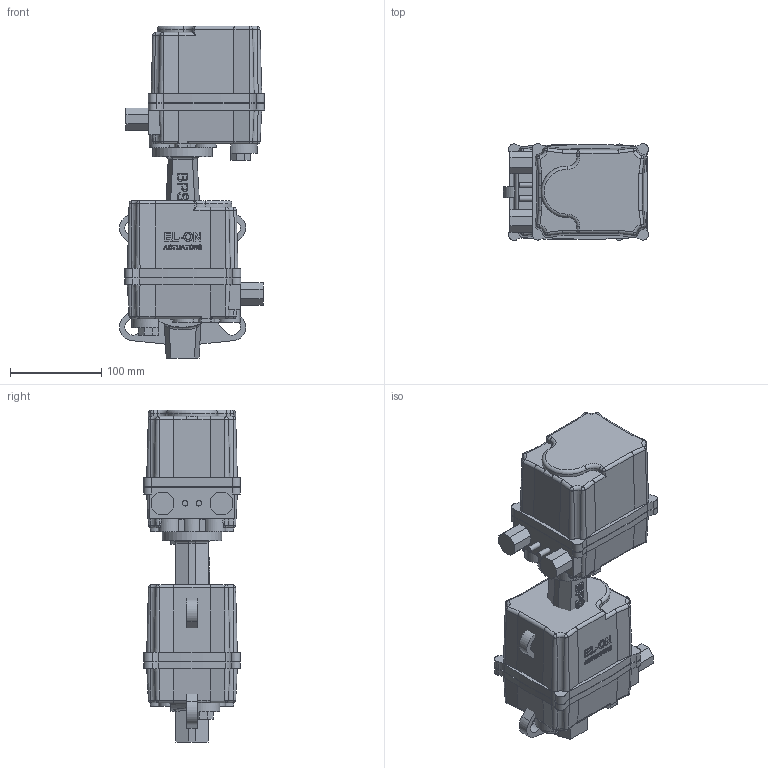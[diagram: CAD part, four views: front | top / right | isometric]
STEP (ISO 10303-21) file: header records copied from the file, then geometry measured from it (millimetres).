
FILE_DESCRIPTION( ( 'Unknown' ), '1' );
FILE_NAME( 'R:/ECCUA/ROOTSI BPS 3D vidinad/Poordklapid Wafer type/Butterfly valve(wafer) with electric actuator BPS/STEP formaat/BPS 2303065E butterfly valve DN65.stp', 'Unknown', ( 'Unknown' ), ( 'Unknown' ), 'PSStep 10.1', 'Unknown', ' ' );
FILE_SCHEMA( ( 'AUTOMOTIVE_DESIGN { 1 0 10303 214 1 1 1 1 }' ) );
Length unit declared in the file: millimetre
Products named in the file (4): Assem1; Butterfly valve wafer type DN65 BPS; BPS 8005058 electric actuator DN40-100
Bounding box: 158.54 x 105.49 x 363 mm (x, y, z)
Volume: 3999639.4 mm3; surface area: 397007.1 mm2
Topology: 6 solids, 6 shells, 1132 faces, 2968 edges, 1916 vertices
Faces by surface type: plane 394, extrusion 278, cylinder 266, cone 84, bspline 72, torus 38
Full cylindrical faces by diameter (mm): 4.134 x16, 4.917 x8, 6 x4, 6.647 x8, 7 x8, 65 x4, 95 x4, 109 x2
Entity records: 29531 total; most frequent: CARTESIAN_POINT 11805, ORIENTED_EDGE 2776, DIRECTION 2378, EDGE_CURVE 1388, VERTEX_POINT 937, VECTOR 880, AXIS2_PLACEMENT_3D 749, LINE 741
